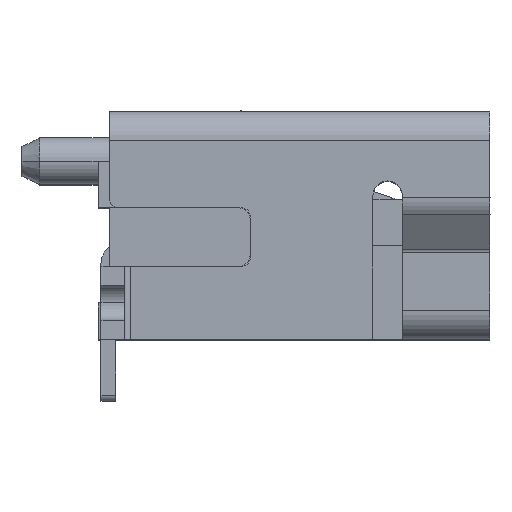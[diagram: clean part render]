
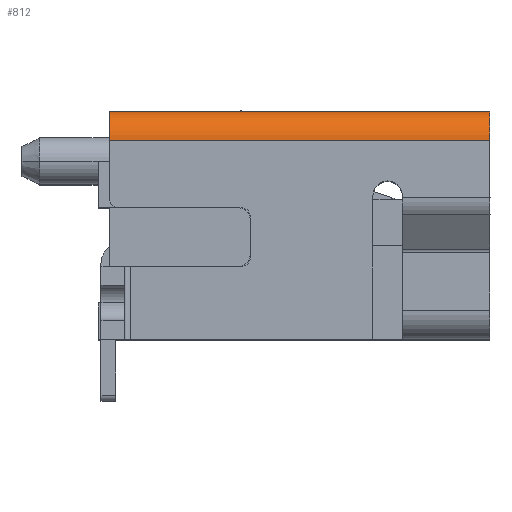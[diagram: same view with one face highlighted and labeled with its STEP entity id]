
A CAD part, top view. The second image highlights one B-rep face of the part: STEP entity #812.
In plain terms, the highlighted cylindrical face has radius 0.5 mm (diameter 1 mm), a partial arc.
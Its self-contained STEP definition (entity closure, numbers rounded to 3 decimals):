
#121 = AXIS2_PLACEMENT_3D ( 'NONE', #2896, #1394, #15557 ) ;
#812 = ADVANCED_FACE ( 'NONE', ( #8400 ), #13513, .T. ) ;
#1237 = LINE ( 'NONE', #19784, #11443 ) ;
#1372 = CARTESIAN_POINT ( 'NONE',  ( 0., 2.46, -0.55 ) ) ;
#1394 = DIRECTION ( 'NONE',  ( 1., 0., 0. ) ) ;
#2098 = VERTEX_POINT ( 'NONE', #18202 ) ;
#2329 = AXIS2_PLACEMENT_3D ( 'NONE', #1372, #15774, #12365 ) ;
#2896 = CARTESIAN_POINT ( 'NONE',  ( 6.5, 2.46, -0.55 ) ) ;
#3202 = DIRECTION ( 'NONE',  ( -1., 0., 0. ) ) ;
#3620 = VERTEX_POINT ( 'NONE', #8864 ) ;
#5303 = EDGE_LOOP ( 'NONE', ( #7011, #8475, #11497, #21553 ) ) ;
#7011 = ORIENTED_EDGE ( 'NONE', *, *, #8068, .F. ) ;
#7202 = VERTEX_POINT ( 'NONE', #17506 ) ;
#8068 = EDGE_CURVE ( 'NONE', #2098, #3620, #14000, .T. ) ;
#8400 = FACE_OUTER_BOUND ( 'NONE', #5303, .T. ) ;
#8475 = ORIENTED_EDGE ( 'NONE', *, *, #17885, .F. ) ;
#8559 = CARTESIAN_POINT ( 'NONE',  ( 0., 2.96, -0.55 ) ) ;
#8864 = CARTESIAN_POINT ( 'NONE',  ( 6.5, 2.96, -0.55 ) ) ;
#10645 = DIRECTION ( 'NONE',  ( 1., 0., 0. ) ) ;
#11443 = VECTOR ( 'NONE', #10645, 1000. ) ;
#11497 = ORIENTED_EDGE ( 'NONE', *, *, #16225, .T. ) ;
#12365 = DIRECTION ( 'NONE',  ( 0., 0., 1. ) ) ;
#13513 = CYLINDRICAL_SURFACE ( 'NONE', #2329, 0.5 ) ;
#14000 = LINE ( 'NONE', #8559, #17631 ) ;
#14039 = VERTEX_POINT ( 'NONE', #15776 ) ;
#14504 = AXIS2_PLACEMENT_3D ( 'NONE', #23341, #3202, #21450 ) ;
#15557 = DIRECTION ( 'NONE',  ( 0., 0., 1. ) ) ;
#15774 = DIRECTION ( 'NONE',  ( -1., 0., 0. ) ) ;
#15776 = CARTESIAN_POINT ( 'NONE',  ( 0., 2.46, -0.05 ) ) ;
#16225 = EDGE_CURVE ( 'NONE', #14039, #7202, #1237, .T. ) ;
#16482 = CIRCLE ( 'NONE', #14504, 0.5 ) ;
#17506 = CARTESIAN_POINT ( 'NONE',  ( 6.5, 2.46, -0.05 ) ) ;
#17631 = VECTOR ( 'NONE', #19444, 1000. ) ;
#17885 = EDGE_CURVE ( 'NONE', #14039, #2098, #16482, .T. ) ;
#18202 = CARTESIAN_POINT ( 'NONE',  ( 0., 2.96, -0.55 ) ) ;
#19444 = DIRECTION ( 'NONE',  ( 1., 0., 0. ) ) ;
#19784 = CARTESIAN_POINT ( 'NONE',  ( 6.5, 2.46, -0.05 ) ) ;
#20374 = CIRCLE ( 'NONE', #121, 0.5 ) ;
#21450 = DIRECTION ( 'NONE',  ( 0., 0., 1. ) ) ;
#21524 = EDGE_CURVE ( 'NONE', #3620, #7202, #20374, .T. ) ;
#21553 = ORIENTED_EDGE ( 'NONE', *, *, #21524, .F. ) ;
#23341 = CARTESIAN_POINT ( 'NONE',  ( 0., 2.46, -0.55 ) ) ;
